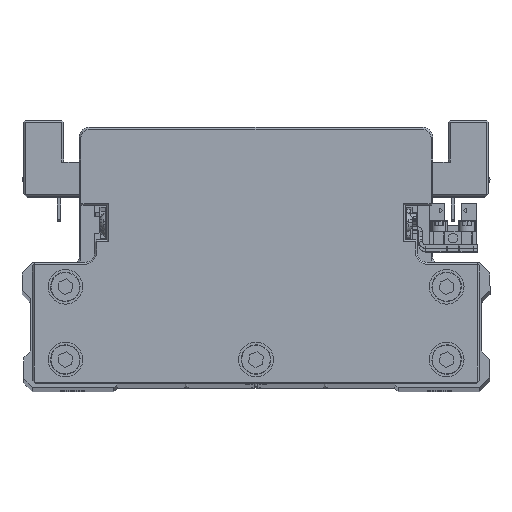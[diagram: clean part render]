
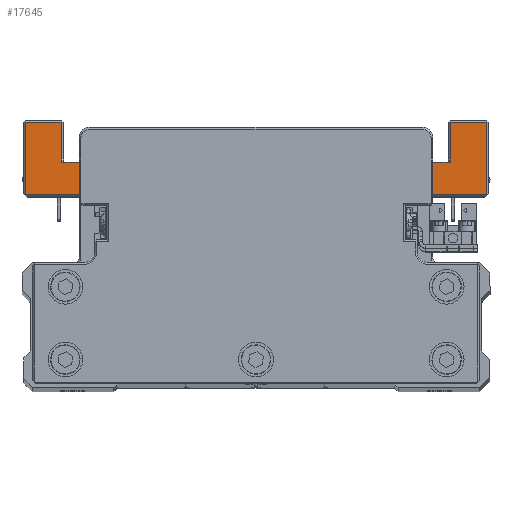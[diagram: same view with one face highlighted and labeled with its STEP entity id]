
A CAD part, top view. The second image highlights one B-rep face of the part: STEP entity #17645.
In plain terms, the highlighted planar face has unit normal (0, 0, 1) as drawn and (0, -1, 0) by its records, which use the part's own axes.
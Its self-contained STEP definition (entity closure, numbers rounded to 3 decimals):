
#10 = CARTESIAN_POINT ( 'NONE',  ( -56., -45., -52.5 ) ) ;
#18 = LINE ( 'NONE', #12270, #17683 ) ;
#205 = LINE ( 'NONE', #12464, #24092 ) ;
#254 = EDGE_CURVE ( 'NONE', #12702, #20277, #18, .T. ) ;
#609 = CARTESIAN_POINT ( 'NONE',  ( -56., -45., -52.5 ) ) ;
#614 = VECTOR ( 'NONE', #797, 1000. ) ;
#721 = AXIS2_PLACEMENT_3D ( 'NONE', #4370, #16637, #28838 ) ;
#769 = ORIENTED_EDGE ( 'NONE', *, *, #4014, .T. ) ;
#797 = DIRECTION ( 'NONE',  ( 0., 0., 1. ) ) ;
#1154 = CARTESIAN_POINT ( 'NONE',  ( 66.5, -45., -64. ) ) ;
#1217 = CARTESIAN_POINT ( 'NONE',  ( 56., -45., -52.5 ) ) ;
#1228 = VECTOR ( 'NONE', #18745, 1000. ) ;
#1427 = ORIENTED_EDGE ( 'NONE', *, *, #19898, .T. ) ;
#1446 = ORIENTED_EDGE ( 'NONE', *, *, #21600, .F. ) ;
#1967 = EDGE_CURVE ( 'NONE', #12026, #8616, #28076, .T. ) ;
#1994 = CARTESIAN_POINT ( 'NONE',  ( 46., -45., -54. ) ) ;
#2070 = ORIENTED_EDGE ( 'NONE', *, *, #9520, .T. ) ;
#2772 = CARTESIAN_POINT ( 'NONE',  ( 40.066, -45., -43. ) ) ;
#3207 = ORIENTED_EDGE ( 'NONE', *, *, #13106, .T. ) ;
#3288 = VECTOR ( 'NONE', #4925, 1000. ) ;
#4014 = EDGE_CURVE ( 'NONE', #9591, #37957, #14807, .T. ) ;
#4138 = VECTOR ( 'NONE', #23071, 1000. ) ;
#4293 = ORIENTED_EDGE ( 'NONE', *, *, #1967, .T. ) ;
#4370 = CARTESIAN_POINT ( 'NONE',  ( -40.066, -45., -41.5 ) ) ;
#4481 = LINE ( 'NONE', #16744, #23001 ) ;
#4562 = ORIENTED_EDGE ( 'NONE', *, *, #37539, .T. ) ;
#4646 = LINE ( 'NONE', #16898, #11856 ) ;
#4785 = AXIS2_PLACEMENT_3D ( 'NONE', #26739, #38973, #11505 ) ;
#4925 = DIRECTION ( 'NONE',  ( 1., 0., 0. ) ) ;
#6042 = CARTESIAN_POINT ( 'NONE',  ( 55.5, -45., -52.5 ) ) ;
#6485 = EDGE_CURVE ( 'NONE', #14394, #10076, #33971, .T. ) ;
#6504 = CARTESIAN_POINT ( 'NONE',  ( 25.802, -45., -41.111 ) ) ;
#6655 = EDGE_CURVE ( 'NONE', #24607, #36153, #4481, .T. ) ;
#7557 = VECTOR ( 'NONE', #39236, 1000. ) ;
#8160 = CARTESIAN_POINT ( 'NONE',  ( 0., -45., 0. ) ) ;
#8616 = VERTEX_POINT ( 'NONE', #10 ) ;
#8714 = CARTESIAN_POINT ( 'NONE',  ( 67., -45., -64. ) ) ;
#8836 = EDGE_CURVE ( 'NONE', #36153, #15094, #38084, .T. ) ;
#8846 = VERTEX_POINT ( 'NONE', #32066 ) ;
#8863 = ORIENTED_EDGE ( 'NONE', *, *, #254, .T. ) ;
#9520 = EDGE_CURVE ( 'NONE', #37957, #24607, #35307, .T. ) ;
#9591 = VERTEX_POINT ( 'NONE', #38470 ) ;
#9815 = DIRECTION ( 'NONE',  ( -1., 0., 0. ) ) ;
#10051 = ORIENTED_EDGE ( 'NONE', *, *, #6485, .T. ) ;
#10076 = VERTEX_POINT ( 'NONE', #20374 ) ;
#10150 = EDGE_CURVE ( 'NONE', #8846, #17529, #36188, .T. ) ;
#10261 = CARTESIAN_POINT ( 'NONE',  ( -56., -45., -64. ) ) ;
#10617 = CARTESIAN_POINT ( 'NONE',  ( -66.5, -45., -64.5 ) ) ;
#10849 = CARTESIAN_POINT ( 'NONE',  ( 46., -45., -54. ) ) ;
#10922 = VECTOR ( 'NONE', #20955, 1000. ) ;
#10954 = LINE ( 'NONE', #32398, #3288 ) ;
#11299 = EDGE_CURVE ( 'NONE', #15094, #12026, #10954, .T. ) ;
#11505 = DIRECTION ( 'NONE',  ( 0., 0., -1. ) ) ;
#11594 = LINE ( 'NONE', #23811, #38695 ) ;
#11856 = VECTOR ( 'NONE', #29102, 1000. ) ;
#12026 = VERTEX_POINT ( 'NONE', #10261 ) ;
#12178 = CARTESIAN_POINT ( 'NONE',  ( -55.5, -45., -52.5 ) ) ;
#12270 = CARTESIAN_POINT ( 'NONE',  ( 40.066, -45., -43. ) ) ;
#12464 = CARTESIAN_POINT ( 'NONE',  ( 56., -45., -64.5 ) ) ;
#12671 = ORIENTED_EDGE ( 'NONE', *, *, #18490, .F. ) ;
#12702 = VERTEX_POINT ( 'NONE', #21932 ) ;
#12860 = DIRECTION ( 'NONE',  ( 0., 0., 1. ) ) ;
#13106 = EDGE_CURVE ( 'NONE', #24214, #32955, #38317, .T. ) ;
#14394 = VERTEX_POINT ( 'NONE', #39113 ) ;
#14807 = LINE ( 'NONE', #27019, #7557 ) ;
#14952 = EDGE_LOOP ( 'NONE', ( #17450, #769, #2070, #33744, #24693, #28365, #4293, #20470, #30487, #3207, #12671, #1446, #1427, #24222, #4562, #8863, #34333, #10051 ) ) ;
#15094 = VERTEX_POINT ( 'NONE', #37831 ) ;
#15163 = VECTOR ( 'NONE', #9815, 1000. ) ;
#16067 = LINE ( 'NONE', #28267, #614 ) ;
#16637 = DIRECTION ( 'NONE',  ( 0., 1., 0. ) ) ;
#16744 = CARTESIAN_POINT ( 'NONE',  ( -66., -45., -43. ) ) ;
#16898 = CARTESIAN_POINT ( 'NONE',  ( 46., -45., -52.5 ) ) ;
#17373 = CARTESIAN_POINT ( 'NONE',  ( -66.5, -45., -43. ) ) ;
#17450 = ORIENTED_EDGE ( 'NONE', *, *, #19972, .T. ) ;
#17529 = VERTEX_POINT ( 'NONE', #1154 ) ;
#17645 = ADVANCED_FACE ( 'NONE', ( #23386 ), #35625, .T. ) ;
#17683 = VECTOR ( 'NONE', #24470, 1000. ) ;
#17955 = CARTESIAN_POINT ( 'NONE',  ( -39.868, -45., -42.987 ) ) ;
#18298 = DIRECTION ( 'NONE',  ( -1., 0., 0. ) ) ;
#18490 = EDGE_CURVE ( 'NONE', #28021, #32955, #4646, .T. ) ;
#18745 = DIRECTION ( 'NONE',  ( -0.991, 0., 0.132 ) ) ;
#18936 = VERTEX_POINT ( 'NONE', #35687 ) ;
#19898 = EDGE_CURVE ( 'NONE', #30855, #8846, #205, .T. ) ;
#19972 = EDGE_CURVE ( 'NONE', #10076, #9591, #25080, .T. ) ;
#20277 = VERTEX_POINT ( 'NONE', #2772 ) ;
#20374 = CARTESIAN_POINT ( 'NONE',  ( 36.217, -45., -42.5 ) ) ;
#20397 = DIRECTION ( 'NONE',  ( 0., -1., 0. ) ) ;
#20470 = ORIENTED_EDGE ( 'NONE', *, *, #34547, .F. ) ;
#20955 = DIRECTION ( 'NONE',  ( 1., 0., 0. ) ) ;
#21600 = EDGE_CURVE ( 'NONE', #30855, #28021, #33516, .T. ) ;
#21621 = VECTOR ( 'NONE', #18298, 1000. ) ;
#21932 = CARTESIAN_POINT ( 'NONE',  ( 66.5, -45., -43. ) ) ;
#22071 = CIRCLE ( 'NONE', #4785, 1.5 ) ;
#22762 = CARTESIAN_POINT ( 'NONE',  ( 46., -45., -52.5 ) ) ;
#22842 = DIRECTION ( 'NONE',  ( 0., 0., -1. ) ) ;
#23001 = VECTOR ( 'NONE', #28946, 1000. ) ;
#23071 = DIRECTION ( 'NONE',  ( 1., 0., 0. ) ) ;
#23386 = FACE_OUTER_BOUND ( 'NONE', #14952, .T. ) ;
#23811 = CARTESIAN_POINT ( 'NONE',  ( 66.5, -45., -43.5 ) ) ;
#24092 = VECTOR ( 'NONE', #24671, 1000. ) ;
#24214 = VERTEX_POINT ( 'NONE', #35178 ) ;
#24222 = ORIENTED_EDGE ( 'NONE', *, *, #10150, .T. ) ;
#24385 = DIRECTION ( 'NONE',  ( -1., 0., 0. ) ) ;
#24470 = DIRECTION ( 'NONE',  ( -1., 0., 0. ) ) ;
#24607 = VERTEX_POINT ( 'NONE', #31910 ) ;
#24671 = DIRECTION ( 'NONE',  ( 0., 0., -1. ) ) ;
#24693 = ORIENTED_EDGE ( 'NONE', *, *, #8836, .T. ) ;
#25080 = LINE ( 'NONE', #37308, #15163 ) ;
#26739 = CARTESIAN_POINT ( 'NONE',  ( 40.066, -45., -41.5 ) ) ;
#27019 = CARTESIAN_POINT ( 'NONE',  ( -39.868, -45., -42.987 ) ) ;
#28021 = VERTEX_POINT ( 'NONE', #22762 ) ;
#28076 = LINE ( 'NONE', #609, #39105 ) ;
#28267 = CARTESIAN_POINT ( 'NONE',  ( -46., -45., -52.5 ) ) ;
#28365 = ORIENTED_EDGE ( 'NONE', *, *, #11299, .T. ) ;
#28838 = DIRECTION ( 'NONE',  ( 0., 0., -1. ) ) ;
#28946 = DIRECTION ( 'NONE',  ( -1., 0., 0. ) ) ;
#29102 = DIRECTION ( 'NONE',  ( 0., 0., -1. ) ) ;
#30466 = AXIS2_PLACEMENT_3D ( 'NONE', #8160, #20397, #32627 ) ;
#30487 = ORIENTED_EDGE ( 'NONE', *, *, #32818, .F. ) ;
#30855 = VERTEX_POINT ( 'NONE', #1217 ) ;
#31910 = CARTESIAN_POINT ( 'NONE',  ( -40.066, -45., -43. ) ) ;
#32066 = CARTESIAN_POINT ( 'NONE',  ( 56., -45., -64. ) ) ;
#32398 = CARTESIAN_POINT ( 'NONE',  ( -55.5, -45., -64. ) ) ;
#32627 = DIRECTION ( 'NONE',  ( 0., 0., -1. ) ) ;
#32818 = EDGE_CURVE ( 'NONE', #24214, #18936, #16067, .T. ) ;
#32955 = VERTEX_POINT ( 'NONE', #1994 ) ;
#33516 = LINE ( 'NONE', #6042, #21621 ) ;
#33744 = ORIENTED_EDGE ( 'NONE', *, *, #6655, .T. ) ;
#33971 = LINE ( 'NONE', #6504, #1228 ) ;
#34333 = ORIENTED_EDGE ( 'NONE', *, *, #38419, .T. ) ;
#34547 = EDGE_CURVE ( 'NONE', #18936, #8616, #39626, .T. ) ;
#34615 = VECTOR ( 'NONE', #22842, 1000. ) ;
#35178 = CARTESIAN_POINT ( 'NONE',  ( -46., -45., -54. ) ) ;
#35307 = CIRCLE ( 'NONE', #721, 1.5 ) ;
#35625 = PLANE ( 'NONE',  #30466 ) ;
#35687 = CARTESIAN_POINT ( 'NONE',  ( -46., -45., -52.5 ) ) ;
#35936 = VECTOR ( 'NONE', #24385, 1000. ) ;
#36035 = DIRECTION ( 'NONE',  ( 0., 0., 1. ) ) ;
#36153 = VERTEX_POINT ( 'NONE', #17373 ) ;
#36188 = LINE ( 'NONE', #8714, #10922 ) ;
#37308 = CARTESIAN_POINT ( 'NONE',  ( -77.786, -45., -42.5 ) ) ;
#37539 = EDGE_CURVE ( 'NONE', #17529, #12702, #11594, .T. ) ;
#37831 = CARTESIAN_POINT ( 'NONE',  ( -66.5, -45., -64. ) ) ;
#37957 = VERTEX_POINT ( 'NONE', #17955 ) ;
#38084 = LINE ( 'NONE', #10617, #34615 ) ;
#38317 = LINE ( 'NONE', #10849, #4138 ) ;
#38419 = EDGE_CURVE ( 'NONE', #20277, #14394, #22071, .T. ) ;
#38470 = CARTESIAN_POINT ( 'NONE',  ( -36.217, -45., -42.5 ) ) ;
#38695 = VECTOR ( 'NONE', #36035, 1000. ) ;
#38973 = DIRECTION ( 'NONE',  ( 0., 1., 0. ) ) ;
#39105 = VECTOR ( 'NONE', #12860, 1000. ) ;
#39113 = CARTESIAN_POINT ( 'NONE',  ( 39.868, -45., -42.987 ) ) ;
#39236 = DIRECTION ( 'NONE',  ( -0.991, 0., -0.132 ) ) ;
#39626 = LINE ( 'NONE', #12178, #35936 ) ;
